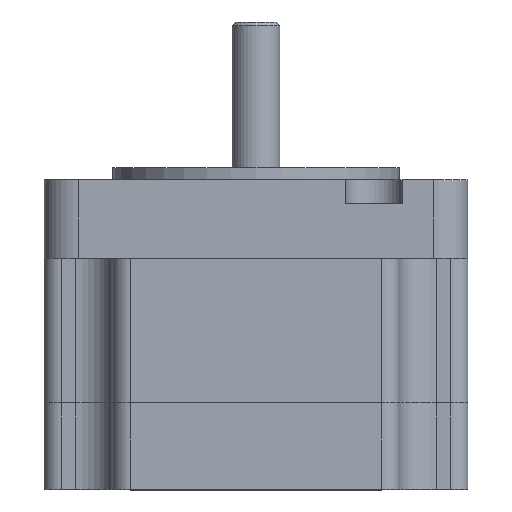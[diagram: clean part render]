
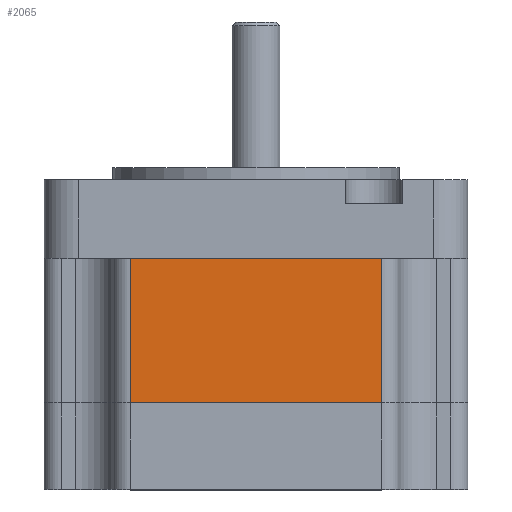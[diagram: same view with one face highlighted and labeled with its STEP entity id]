
A CAD part, top view. The second image highlights one B-rep face of the part: STEP entity #2065.
In plain terms, the highlighted planar face has unit normal (0, 0, 1).
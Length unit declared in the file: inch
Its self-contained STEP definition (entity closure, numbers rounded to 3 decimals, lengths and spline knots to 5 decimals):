
#155=LINE('',#3306,#337);
#161=LINE('',#3341,#343);
#162=LINE('',#3344,#344);
#163=LINE('',#3345,#345);
#337=VECTOR('',#2681,1.31496);
#343=VECTOR('',#2717,0.75591);
#344=VECTOR('',#2720,1.31496);
#345=VECTOR('',#2721,0.75591);
#517=FACE_OUTER_BOUND('',#650,.T.);
#650=EDGE_LOOP('',(#1628,#1629,#1630,#1631));
#932=VERTEX_POINT('',#3303);
#933=VERTEX_POINT('',#3305);
#947=VERTEX_POINT('',#3339);
#948=VERTEX_POINT('',#3343);
#1178=EDGE_CURVE('',#932,#933,#155,.T.);
#1196=EDGE_CURVE('',#933,#947,#161,.T.);
#1197=EDGE_CURVE('',#947,#948,#162,.T.);
#1198=EDGE_CURVE('',#932,#948,#163,.T.);
#1628=ORIENTED_EDGE('',*,*,#1197,.F.);
#1629=ORIENTED_EDGE('',*,*,#1196,.F.);
#1630=ORIENTED_EDGE('',*,*,#1178,.F.);
#1631=ORIENTED_EDGE('',*,*,#1198,.T.);
#1884=PLANE('',#2271);
#2065=ADVANCED_FACE('',(#517),#1884,.F.);
#2271=AXIS2_PLACEMENT_3D('',#3342,#2718,#2719);
#2681=DIRECTION('',(-1.,0.,0.));
#2717=DIRECTION('',(0.,1.,0.));
#2718=DIRECTION('center_axis',(0.,0.,-1.));
#2719=DIRECTION('ref_axis',(-1.,0.,0.));
#2720=DIRECTION('',(1.,0.,0.));
#2721=DIRECTION('',(0.,1.,0.));
#3303=CARTESIAN_POINT('',(-0.99099,-0.15432,1.50052));
#3305=CARTESIAN_POINT('',(-2.30595,-0.15432,1.50052));
#3306=CARTESIAN_POINT('',(-0.99099,-0.15432,1.50052));
#3339=CARTESIAN_POINT('',(-2.30595,0.60159,1.50052));
#3341=CARTESIAN_POINT('',(-2.30595,-0.15432,1.50052));
#3342=CARTESIAN_POINT('Origin',(-2.30595,-0.16022,1.50052));
#3343=CARTESIAN_POINT('',(-0.99099,0.60159,1.50052));
#3344=CARTESIAN_POINT('',(-2.30595,0.60159,1.50052));
#3345=CARTESIAN_POINT('',(-0.99099,-0.15432,1.50052));
